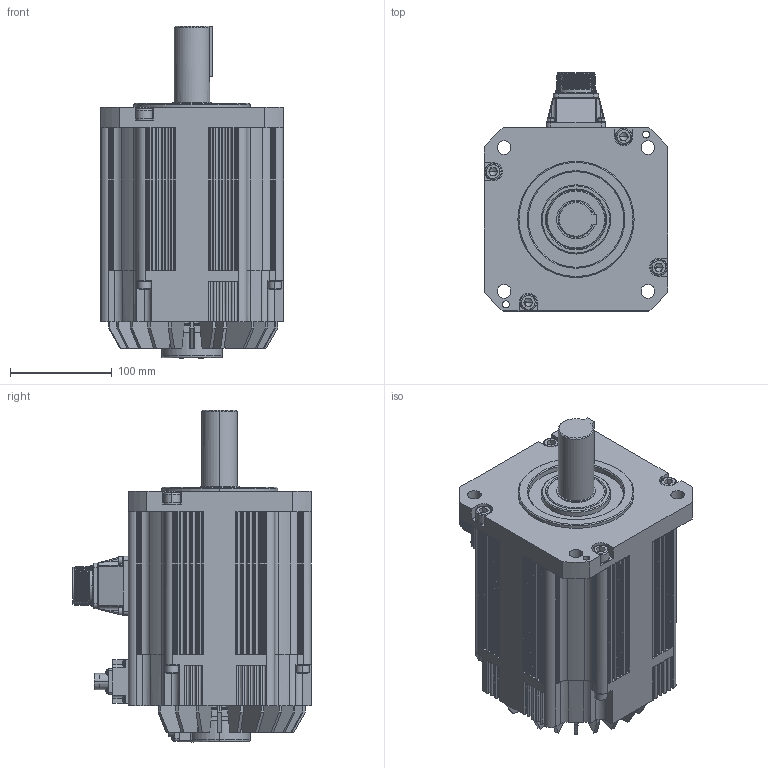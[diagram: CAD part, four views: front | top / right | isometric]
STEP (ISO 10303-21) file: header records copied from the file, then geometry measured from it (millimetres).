
FILE_DESCRIPTION (( 'STEP AP203' ), '1' );
FILE_NAME ('TSM3609N7375E721.STEP', '2018-07-04T09:10:17', ( '' ), ( '' ), 'SwSTEP 2.0', 'SolidWorks 2017', '' );
FILE_SCHEMA (( 'CONFIG_CONTROL_DESIGN' ));
Length unit declared in the file: millimetre
Products named in the file (1): TSM3609N7375E721
Bounding box: 180 x 234.5 x 326.5 mm (x, y, z)
Volume: 6122731.6 mm3; surface area: 362423.2 mm2
Topology: 1 solids, 20 shells, 2819 faces, 7499 edges, 4818 vertices
Faces by surface type: plane 1514, cylinder 748, bspline 404, cone 139, torus 14
Entity records: 108945 total; most frequent: CARTESIAN_POINT 42379, ORIENTED_EDGE 14882, DIRECTION 12217, EDGE_CURVE 7441, VERTEX_POINT 4818, VECTOR 4509, LINE 4509, AXIS2_PLACEMENT_3D 3854
